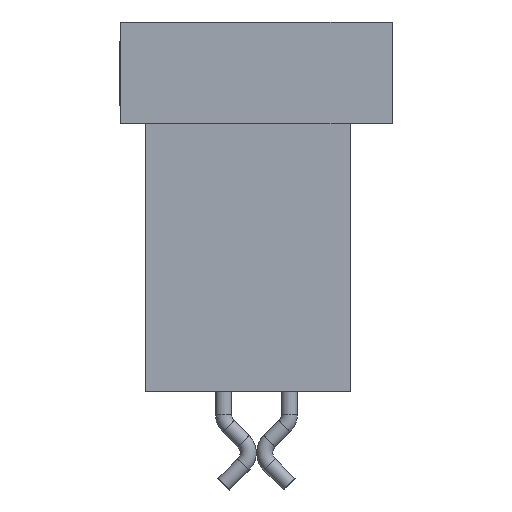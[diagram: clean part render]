
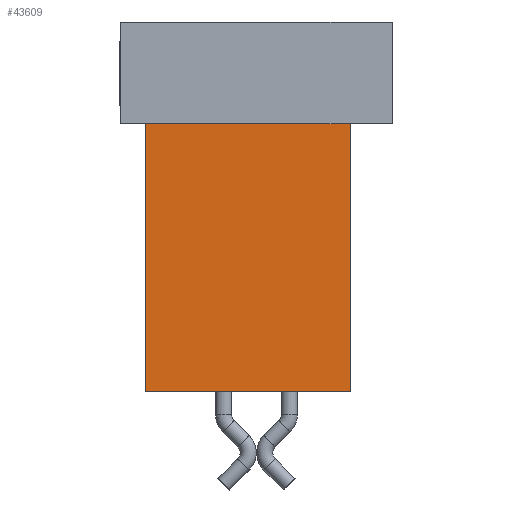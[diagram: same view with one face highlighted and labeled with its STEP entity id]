
A CAD part, left-side view. The second image highlights one B-rep face of the part: STEP entity #43609.
In plain terms, the highlighted planar face has unit normal (-1, 0, 0).
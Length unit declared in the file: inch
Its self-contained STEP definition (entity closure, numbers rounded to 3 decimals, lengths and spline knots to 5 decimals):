
#1325 = DIRECTION ( 'NONE',  ( -1., 0., 0. ) ) ;
#1727 = VERTEX_POINT ( 'NONE', #25043 ) ;
#3394 = DIRECTION ( 'NONE',  ( 0., 0., 1. ) ) ;
#3655 = FACE_OUTER_BOUND ( 'NONE', #58195, .T. ) ;
#4092 = VERTEX_POINT ( 'NONE', #31264 ) ;
#4976 = CARTESIAN_POINT ( 'NONE',  ( -0.45, -0.0575, -0.225 ) ) ;
#5960 = LINE ( 'NONE', #44687, #18470 ) ;
#6620 = LINE ( 'NONE', #31448, #18028 ) ;
#10598 = ORIENTED_EDGE ( 'NONE', *, *, #32060, .F. ) ;
#11998 = CARTESIAN_POINT ( 'NONE',  ( -0.45, 0.0675, -0.225 ) ) ;
#12252 = CARTESIAN_POINT ( 'NONE',  ( -0.45, 0.0675, -0.225 ) ) ;
#12663 = EDGE_CURVE ( 'NONE', #1727, #44097, #5960, .T. ) ;
#18028 = VECTOR ( 'NONE', #40283, 39.37008 ) ;
#18470 = VECTOR ( 'NONE', #20310, 39.37008 ) ;
#20310 = DIRECTION ( 'NONE',  ( 0., -1., 0. ) ) ;
#21934 = EDGE_CURVE ( 'NONE', #55352, #4092, #6620, .T. ) ;
#22192 = LINE ( 'NONE', #11998, #53229 ) ;
#24222 = ORIENTED_EDGE ( 'NONE', *, *, #60792, .T. ) ;
#24950 = DIRECTION ( 'NONE',  ( 0., 0., 1. ) ) ;
#25043 = CARTESIAN_POINT ( 'NONE',  ( -0.45, 0.0675, -0.062 ) ) ;
#30059 = LINE ( 'NONE', #4976, #52994 ) ;
#31264 = CARTESIAN_POINT ( 'NONE',  ( -0.45, -0.0575, -0.225 ) ) ;
#31300 = AXIS2_PLACEMENT_3D ( 'NONE', #40058, #1325, #35652 ) ;
#31448 = CARTESIAN_POINT ( 'NONE',  ( -0.45, 0.0675, -0.225 ) ) ;
#32060 = EDGE_CURVE ( 'NONE', #55352, #1727, #22192, .T. ) ;
#35652 = DIRECTION ( 'NONE',  ( 0., -1., 0. ) ) ;
#37376 = CARTESIAN_POINT ( 'NONE',  ( -0.45, -0.0575, -0.062 ) ) ;
#40058 = CARTESIAN_POINT ( 'NONE',  ( -0.45, 0.0675, -0.225 ) ) ;
#40283 = DIRECTION ( 'NONE',  ( 0., -1., 0. ) ) ;
#43556 = ORIENTED_EDGE ( 'NONE', *, *, #21934, .T. ) ;
#43609 = ADVANCED_FACE ( 'NONE', ( #3655 ), #61757, .T. ) ;
#44097 = VERTEX_POINT ( 'NONE', #37376 ) ;
#44687 = CARTESIAN_POINT ( 'NONE',  ( -0.45, 0.0675, -0.062 ) ) ;
#52994 = VECTOR ( 'NONE', #24950, 39.37008 ) ;
#53153 = ORIENTED_EDGE ( 'NONE', *, *, #12663, .F. ) ;
#53229 = VECTOR ( 'NONE', #3394, 39.37008 ) ;
#55352 = VERTEX_POINT ( 'NONE', #12252 ) ;
#58195 = EDGE_LOOP ( 'NONE', ( #53153, #10598, #43556, #24222 ) ) ;
#60792 = EDGE_CURVE ( 'NONE', #4092, #44097, #30059, .T. ) ;
#61757 = PLANE ( 'NONE',  #31300 ) ;
